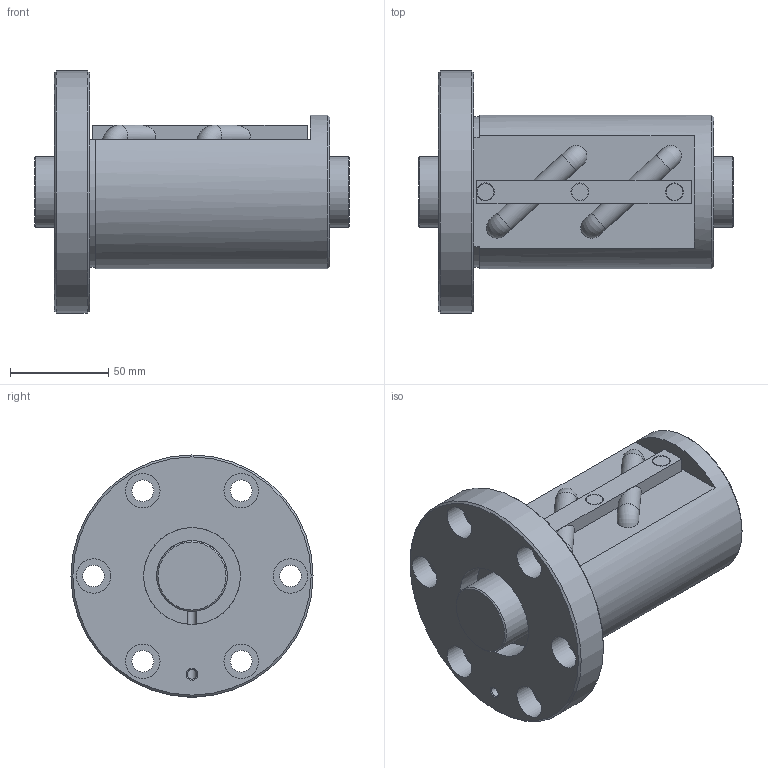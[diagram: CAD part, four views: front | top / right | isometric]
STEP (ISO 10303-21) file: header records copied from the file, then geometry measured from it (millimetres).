
FILE_DESCRIPTION(/* description */ ('STEP AP203'),/* implementation_level */ '2;1');
FILE_NAME(/* name */ 'BIF3616V-5RRG0+160LC0_000',/* time_stamp */ '2024-07-15T08:23:59+02:00',/* author */ ('License CC BY-ND 4.0'),/* organization */ ('CADENAS'),/* preprocessor_version */ 'ST-DEVELOPER v19.3',/* originating_system */ 'PARTsolutions',/* authorisation */ ' ');
FILE_SCHEMA (('CONFIG_CONTROL_DESIGN'));
Length unit declared in the file: millimetre
Products named in the file (3): BIF3616V-5RRG0+160LC0_000; BIF3616V-5RR000 Shaft; BIF3616V-5RR Nut
Assembly tree (2 placements, depth 2):
  BIF3616V-5RRG0+160LC0_000
    BIF3616V-5RR000 Shaft
    BIF3616V-5RR Nut
Bounding box: 160 x 123 x 123 mm (x, y, z)
Volume: 733545.1 mm3; surface area: 102835.6 mm2
Topology: 2 solids, 2 shells, 87 faces, 194 edges, 124 vertices
Faces by surface type: plane 43, cylinder 32, cone 8, torus 4
Full cylindrical faces by diameter (mm): 4.25 x2, 4.917 x1, 8.5 x3, 9.1 x2, 11 x6, 17.5 x6, 36 x2, 49.2 x2, 78 x1, 123 x1
Entity records: 2364 total; most frequent: CARTESIAN_POINT 454, DIRECTION 412, ORIENTED_EDGE 302, AXIS2_PLACEMENT_3D 182, EDGE_CURVE 151, EDGE_LOOP 150, FACE_BOUND 150, VERTEX_POINT 115
